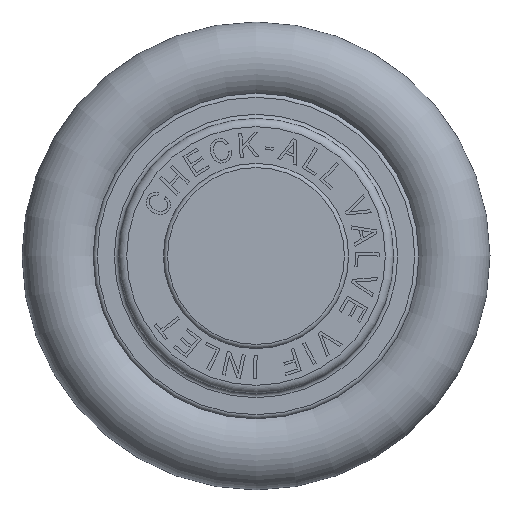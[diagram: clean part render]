
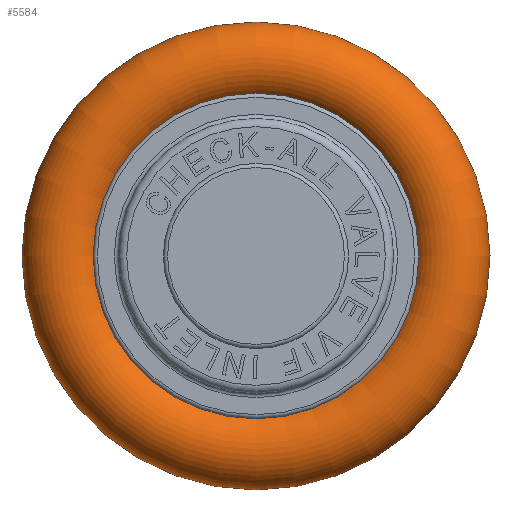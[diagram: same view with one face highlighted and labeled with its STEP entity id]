
A CAD part, left-side view. The second image highlights one B-rep face of the part: STEP entity #5584.
In plain terms, the highlighted toroidal (fillet/blend) face has major radius 11.963 mm and minor radius 2.489 mm.
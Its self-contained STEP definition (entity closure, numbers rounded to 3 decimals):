
#38=TOROIDAL_SURFACE('',#5847,11.963,2.489);
#1297=ORIENTED_EDGE('',*,*,#2398,.T.);
#1298=ORIENTED_EDGE('',*,*,#2397,.F.);
#2397=EDGE_CURVE('',#2953,#2953,#3165,.T.);
#2398=EDGE_CURVE('',#2954,#2954,#3166,.T.);
#2953=VERTEX_POINT('',#7571);
#2954=VERTEX_POINT('',#7574);
#3165=CIRCLE('',#5846,10.002);
#3166=CIRCLE('',#5848,10.002);
#3230=EDGE_LOOP('',(#1297));
#3231=EDGE_LOOP('',(#1298));
#3515=FACE_BOUND('',#3230,.T.);
#3516=FACE_BOUND('',#3231,.T.);
#5584=ADVANCED_FACE('',(#3515,#3516),#38,.T.);
#5846=AXIS2_PLACEMENT_3D('',#7570,#6317,#6318);
#5847=AXIS2_PLACEMENT_3D('',#7572,#6319,#6320);
#5848=AXIS2_PLACEMENT_3D('',#7573,#6321,#6322);
#6317=DIRECTION('',(-1.,0.,0.));
#6318=DIRECTION('',(0.,0.,1.));
#6319=DIRECTION('',(-1.,0.,0.));
#6320=DIRECTION('',(0.,0.,1.));
#6321=DIRECTION('',(-1.,0.,0.));
#6322=DIRECTION('',(0.,0.,1.));
#7570=CARTESIAN_POINT('',(9.767,0.,0.));
#7571=CARTESIAN_POINT('',(9.767,0.,10.002));
#7572=CARTESIAN_POINT('',(11.3,0.,0.));
#7573=CARTESIAN_POINT('',(12.833,0.,0.));
#7574=CARTESIAN_POINT('',(12.833,0.,10.002));
